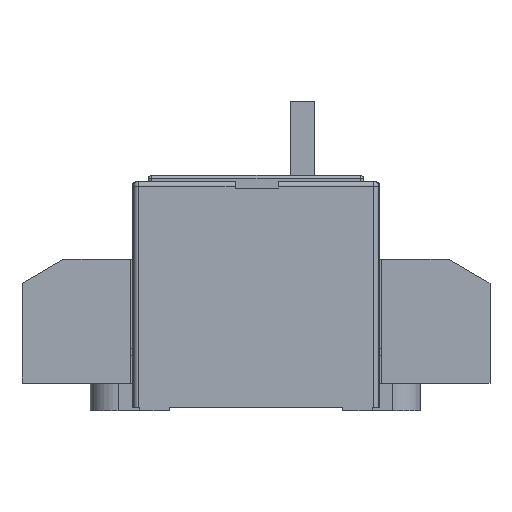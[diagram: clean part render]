
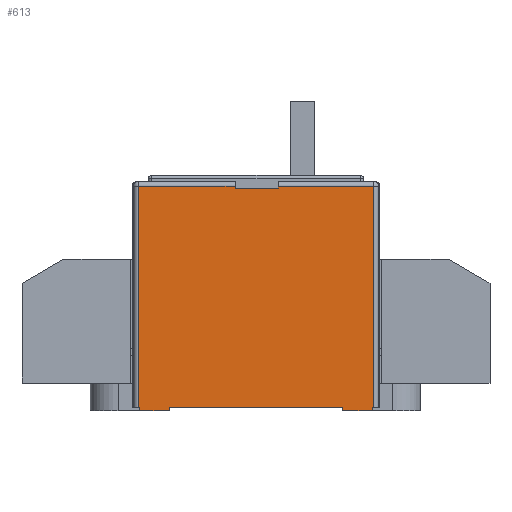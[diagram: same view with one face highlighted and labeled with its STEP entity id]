
A CAD part, left-side view. The second image highlights one B-rep face of the part: STEP entity #613.
In plain terms, the highlighted planar face has unit normal (-1, 0, 0).
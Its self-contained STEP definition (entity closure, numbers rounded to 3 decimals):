
#613=ADVANCED_FACE('',(#1384),#1071,.F.);
#1071=PLANE('',#8755);
#1384=FACE_OUTER_BOUND('',#1824,.T.);
#1824=EDGE_LOOP('',(#2729,#2730,#2731,#2732,#2733,#2734,#2735,#2736,#2737,
#2738,#2739,#2740,#2741,#2742,#2743,#2744));
#2729=ORIENTED_EDGE('',*,*,#5857,.F.);
#2730=ORIENTED_EDGE('',*,*,#5858,.T.);
#2731=ORIENTED_EDGE('',*,*,#5859,.T.);
#2732=ORIENTED_EDGE('',*,*,#5860,.F.);
#2733=ORIENTED_EDGE('',*,*,#5861,.T.);
#2734=ORIENTED_EDGE('',*,*,#5862,.T.);
#2735=ORIENTED_EDGE('',*,*,#5855,.T.);
#2736=ORIENTED_EDGE('',*,*,#5707,.T.);
#2737=ORIENTED_EDGE('',*,*,#5852,.F.);
#2738=ORIENTED_EDGE('',*,*,#5863,.F.);
#2739=ORIENTED_EDGE('',*,*,#5864,.T.);
#2740=ORIENTED_EDGE('',*,*,#5530,.T.);
#2741=ORIENTED_EDGE('',*,*,#5865,.F.);
#2742=ORIENTED_EDGE('',*,*,#5866,.F.);
#2743=ORIENTED_EDGE('',*,*,#5867,.T.);
#2744=ORIENTED_EDGE('',*,*,#5723,.T.);
#4752=VERTEX_POINT('',#11893);
#4753=VERTEX_POINT('',#11895);
#4917=VERTEX_POINT('',#12262);
#4918=VERTEX_POINT('',#12264);
#4929=VERTEX_POINT('',#12290);
#4932=VERTEX_POINT('',#12296);
#5012=VERTEX_POINT('',#12543);
#5014=VERTEX_POINT('',#12551);
#5015=VERTEX_POINT('',#12555);
#5016=VERTEX_POINT('',#12557);
#5017=VERTEX_POINT('',#12559);
#5018=VERTEX_POINT('',#12561);
#5019=VERTEX_POINT('',#12563);
#5020=VERTEX_POINT('',#12566);
#5021=VERTEX_POINT('',#12569);
#5022=VERTEX_POINT('',#12571);
#5530=EDGE_CURVE('',#4753,#4752,#6751,.T.);
#5707=EDGE_CURVE('',#4918,#4917,#6895,.T.);
#5723=EDGE_CURVE('',#4929,#4932,#6907,.T.);
#5852=EDGE_CURVE('',#5012,#4917,#7021,.T.);
#5855=EDGE_CURVE('',#5014,#4918,#7024,.T.);
#5857=EDGE_CURVE('',#5015,#4932,#7025,.T.);
#5858=EDGE_CURVE('',#5015,#5016,#7026,.T.);
#5859=EDGE_CURVE('',#5016,#5017,#7027,.T.);
#5860=EDGE_CURVE('',#5018,#5017,#7028,.T.);
#5861=EDGE_CURVE('',#5018,#5019,#7029,.T.);
#5862=EDGE_CURVE('',#5019,#5014,#7030,.T.);
#5863=EDGE_CURVE('',#5020,#5012,#7031,.T.);
#5864=EDGE_CURVE('',#5020,#4753,#7032,.T.);
#5865=EDGE_CURVE('',#5021,#4752,#7033,.T.);
#5866=EDGE_CURVE('',#5022,#5021,#7034,.T.);
#5867=EDGE_CURVE('',#5022,#4929,#7035,.T.);
#6751=LINE('',#11894,#7711);
#6895=LINE('',#12263,#7855);
#6907=LINE('',#12297,#7867);
#7021=LINE('',#12544,#7981);
#7024=LINE('',#12550,#7984);
#7025=LINE('',#12554,#7985);
#7026=LINE('',#12556,#7986);
#7027=LINE('',#12558,#7987);
#7028=LINE('',#12560,#7988);
#7029=LINE('',#12562,#7989);
#7030=LINE('',#12564,#7990);
#7031=LINE('',#12565,#7991);
#7032=LINE('',#12567,#7992);
#7033=LINE('',#12568,#7993);
#7034=LINE('',#12570,#7994);
#7035=LINE('',#12572,#7995);
#7711=VECTOR('',#9427,1.);
#7855=VECTOR('',#9691,1.);
#7867=VECTOR('',#9717,1.);
#7981=VECTOR('',#9937,1.);
#7984=VECTOR('',#9944,1.);
#7985=VECTOR('',#9949,1.);
#7986=VECTOR('',#9950,1.);
#7987=VECTOR('',#9951,1.);
#7988=VECTOR('',#9952,1.);
#7989=VECTOR('',#9953,1.);
#7990=VECTOR('',#9954,1.);
#7991=VECTOR('',#9955,1.);
#7992=VECTOR('',#9956,1.);
#7993=VECTOR('',#9957,1.);
#7994=VECTOR('',#9958,1.);
#7995=VECTOR('',#9959,1.);
#8755=AXIS2_PLACEMENT_3D('',#12573,#9960,#9961);
#9427=DIRECTION('',(0.,-1.,0.));
#9691=DIRECTION('',(0.,-1.,0.));
#9717=DIRECTION('',(0.,-1.,0.));
#9937=DIRECTION('',(0.,0.,1.));
#9944=DIRECTION('',(0.,0.,-1.));
#9949=DIRECTION('',(0.,0.,-1.));
#9950=DIRECTION('',(0.,1.,0.));
#9951=DIRECTION('',(0.,0.,-1.));
#9952=DIRECTION('',(0.,-1.,0.));
#9953=DIRECTION('',(0.,0.,1.));
#9954=DIRECTION('',(0.,1.,0.));
#9955=DIRECTION('',(0.,1.,0.));
#9956=DIRECTION('',(0.,0.,1.));
#9957=DIRECTION('',(0.,0.,1.));
#9958=DIRECTION('',(0.,1.,0.));
#9959=DIRECTION('',(0.,0.,1.));
#9960=DIRECTION('',(1.,0.,0.));
#9961=DIRECTION('',(0.,0.,-1.));
#11893=CARTESIAN_POINT('',(-69.,-52.735,-3.9));
#11894=CARTESIAN_POINT('',(-69.,-62.235,-3.9));
#11895=CARTESIAN_POINT('',(-69.,3.265,-3.9));
#12262=CARTESIAN_POINT('',(-69.,12.765,-3.9));
#12263=CARTESIAN_POINT('',(-69.,-62.235,-3.9));
#12264=CARTESIAN_POINT('',(-69.,13.265,-3.9));
#12290=CARTESIAN_POINT('',(-69.,-62.235,-3.9));
#12296=CARTESIAN_POINT('',(-69.,-62.735,-3.9));
#12297=CARTESIAN_POINT('',(-69.,-62.235,-3.9));
#12543=CARTESIAN_POINT('',(-69.,12.765,-4.9));
#12544=CARTESIAN_POINT('',(-69.,12.765,-5.9));
#12550=CARTESIAN_POINT('',(-69.,13.265,69.1));
#12551=CARTESIAN_POINT('',(-69.,13.265,67.6));
#12554=CARTESIAN_POINT('',(-69.,-62.735,69.1));
#12555=CARTESIAN_POINT('',(-69.,-62.735,67.6));
#12556=CARTESIAN_POINT('',(-69.,13.265,67.6));
#12557=CARTESIAN_POINT('',(-69.,-31.985,67.6));
#12558=CARTESIAN_POINT('',(-69.,-31.985,69.1));
#12559=CARTESIAN_POINT('',(-69.,-31.985,67.));
#12560=CARTESIAN_POINT('',(-69.,12.765,67.));
#12561=CARTESIAN_POINT('',(-69.,-17.985,67.));
#12562=CARTESIAN_POINT('',(-69.,-17.985,69.1));
#12563=CARTESIAN_POINT('',(-69.,-17.985,67.6));
#12564=CARTESIAN_POINT('',(-69.,13.265,67.6));
#12565=CARTESIAN_POINT('',(-69.,3.265,-4.9));
#12566=CARTESIAN_POINT('',(-69.,3.265,-4.9));
#12567=CARTESIAN_POINT('',(-69.,3.265,-5.9));
#12568=CARTESIAN_POINT('',(-69.,-52.735,-5.9));
#12569=CARTESIAN_POINT('',(-69.,-52.735,-4.9));
#12570=CARTESIAN_POINT('',(-69.,-62.235,-4.9));
#12571=CARTESIAN_POINT('',(-69.,-62.235,-4.9));
#12572=CARTESIAN_POINT('',(-69.,-62.235,-5.9));
#12573=CARTESIAN_POINT('',(-69.,-62.235,69.1));
